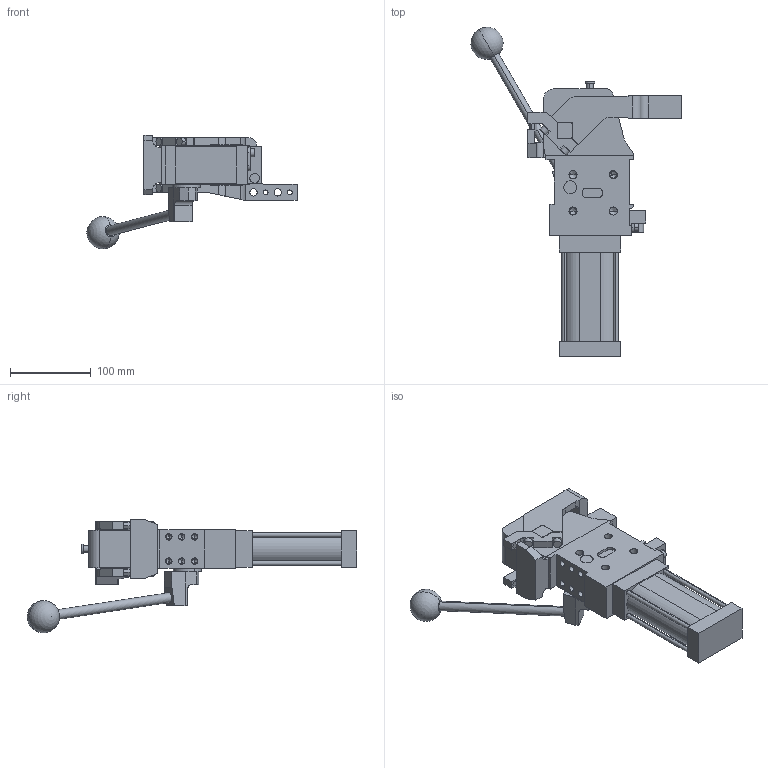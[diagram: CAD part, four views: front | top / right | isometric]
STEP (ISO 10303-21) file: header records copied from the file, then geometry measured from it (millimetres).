
FILE_DESCRIPTION (( 'STEP AP214' ), '1' );
FILE_NAME ('cplm50lbtv1dsi1g_16.STEP', '2023-01-26T13:23:38', ( '' ), ( '' ), 'SwSTEP 2.0', 'SolidWorks 2022', '' );
FILE_SCHEMA (( 'AUTOMOTIVE_DESIGN' ));
Length unit declared in the file: millimetre
Products named in the file (5): leva_v1ds_cpl50t; meccanica_cplm_50_tassello_esterno; cplm50lbtv1dsi1g_16; blocchetto_VEP_0; comando_manuale_cplm_50
Assembly tree (4 placements, depth 2):
  cplm50lbtv1dsi1g_16
    meccanica_cplm_50_tassello_esterno
    blocchetto_VEP_0
    leva_v1ds_cpl50t
    comando_manuale_cplm_50
Bounding box: 260.54 x 408.46 x 141 mm (x, y, z)
Volume: 1510268.7 mm3; surface area: 190869.6 mm2
Topology: 4 solids, 4 shells, 468 faces, 1213 edges, 761 vertices
Faces by surface type: plane 243, cylinder 173, cone 50, sphere 2
Entity records: 15558 total; most frequent: CARTESIAN_POINT 2483, DIRECTION 2468, ORIENTED_EDGE 2324, EDGE_CURVE 1162, AXIS2_PLACEMENT_3D 841, LINE 786, VECTOR 786, VERTEX_POINT 758
